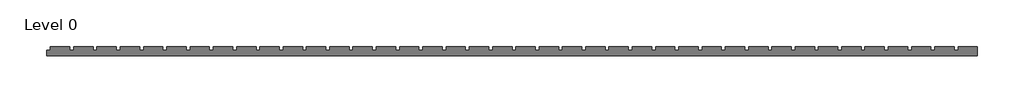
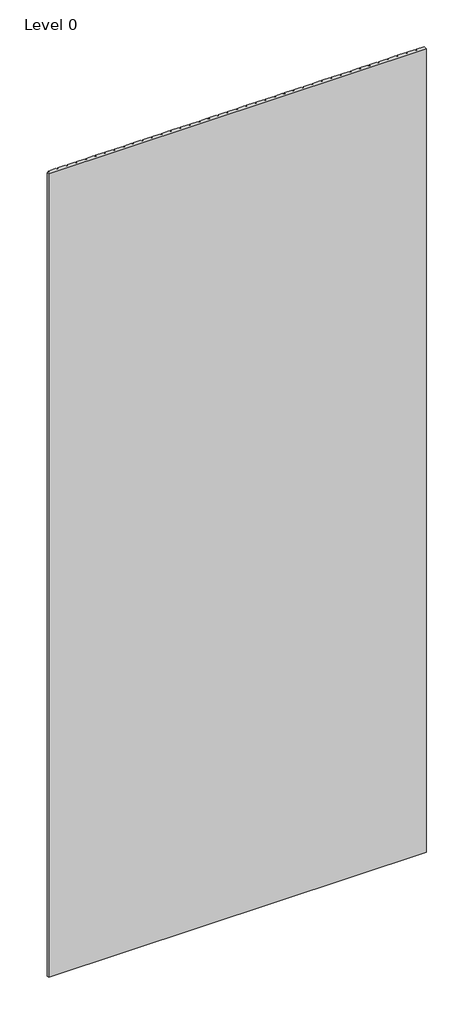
# One storey: 1 proxy.
"""IFC4 building model written with IfcOpenShell, lengths in millimetres."""

from ifc_helpers import new_model, si_unit, origin, place, context, project, spatial, transform, mapped, element, save
from components import generic_models_8e4aa753

model = new_model("IFC4")

# Units and contexts
model_context = context("Model", 3, world=origin())
ifc_project = project(units=[si_unit("LENGTHUNIT", "METRE", prefix="MILLI")], contexts=[model_context])

# Site, building, storey
site = spatial("IfcSite", under=ifc_project)
building = spatial("IfcBuilding", under=site)
storey = spatial("IfcBuildingStorey", under=building, Name="Level 0", Elevation=0.0)

# Proxy
placement = place(None, origin())
generic_models_shape = generic_models_8e4aa753(model_context)
element("IfcBuildingElementProxy", 1, Name="30 12mmSC", ObjectType="30 12mmSC", at=placement, inside=storey, context=model_context, shape_type="MappedRepresentation", body=[
    mapped(generic_models_shape, transform((0.0, 0.0, 0.0), x_axis=(1.0, 0.0, 0.0), y_axis=(0.0, 1.0, 0.0), z_axis=(0.0, 0.0, 1.0))),
])

save(model, "model.ifc")
